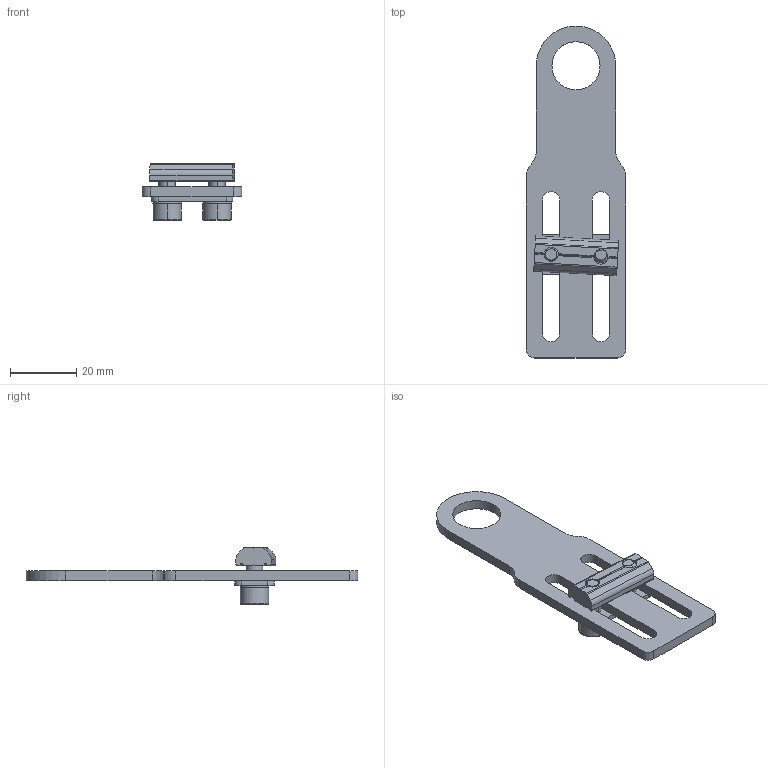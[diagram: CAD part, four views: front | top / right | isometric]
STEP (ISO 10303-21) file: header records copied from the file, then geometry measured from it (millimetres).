
FILE_DESCRIPTION (( 'STEP AP214' ), '1' );
FILE_NAME ('SMBE6-1440.STEP', '2019-11-06T02:00:40', ( '微软用户' ), ( '微软中国' ), 'SwSTEP 2.0', 'SolidWorks 2016', '' );
FILE_SCHEMA (( 'AUTOMOTIVE_DESIGN' ));
Length unit declared in the file: millimetre
Products named in the file (1): SMBE6-1440
Bounding box: 30 x 100 x 17 mm (x, y, z)
Volume: 8616.9 mm3; surface area: 8328.3 mm2
Topology: 7 solids, 7 shells, 518 faces, 1500 edges, 992 vertices
Faces by surface type: plane 451, cylinder 59, cone 4, bspline 4
Entity records: 23300 total; most frequent: CARTESIAN_POINT 3473, ORIENTED_EDGE 3000, DIRECTION 2972, EDGE_CURVE 1500, AXIS2_PLACEMENT_3D 997, VERTEX_POINT 992, VECTOR 978, LINE 978
